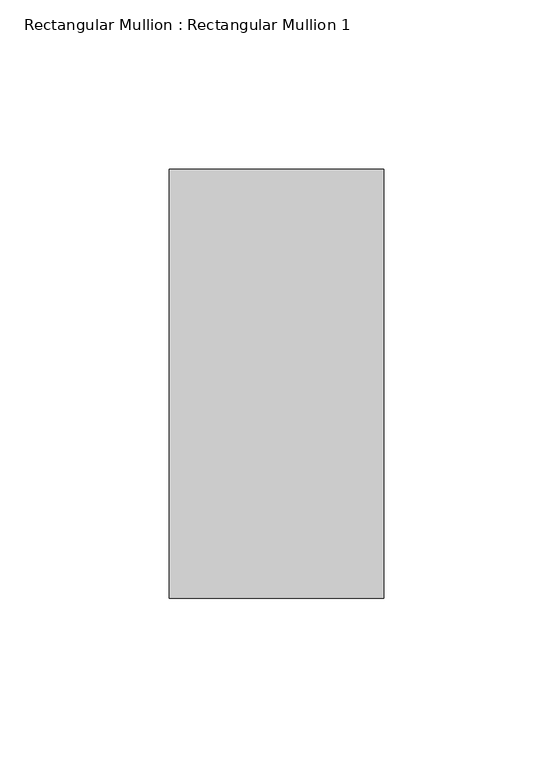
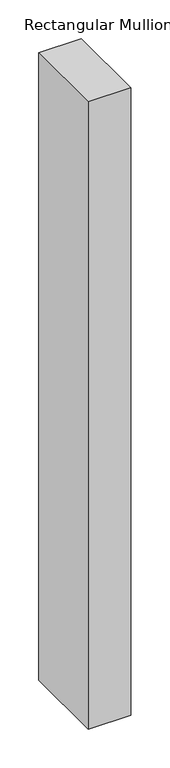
"""IFC4 building model written with IfcOpenShell, lengths in millimetres: member geometry, Rectangular Mullion : Rectangular Mullion 1."""

from ifc_helpers import new_model, si_unit, frame, origin, place, context, project, spatial, polyline, outline, extrude, source, transform, mapped, element, save


def rectangular_mullion_rectangular_mullion_1_21ba479d(model_context):
    return source(origin(), model_context, "Body", "SweptSolid", [
        extrude(outline(polyline([(0.0, 63.5), (0.0, -63.5), (-63.5, -63.5), (-63.5, 63.5), (0.0, 63.5)])), frame((0.0, 0.0, -986.5377248), z_axis=(0.0, 0.0, 1.0), x_axis=(1.0, 0.0, 0.0)), (0.0, 0.0, 1.0), 986.5377248),
    ])


if __name__ == "__main__":
    model = new_model("IFC4")
    model_context = context("Model", 3, world=origin())
    ifc_project = project(units=[si_unit("LENGTHUNIT", "METRE", prefix="MILLI")], contexts=[model_context])
    site = spatial("IfcSite", under=ifc_project)
    building = spatial("IfcBuilding", under=site)
    placement = place(None, origin())
    rectangular_mullion_rectangular_mullion_1_shape = rectangular_mullion_rectangular_mullion_1_21ba479d(model_context)
    element("IfcMember", 1, ObjectType="Rectangular Mullion : Rectangular Mullion 1", at=placement, inside=building, context=model_context, shape_type="MappedRepresentation", body=[
        mapped(rectangular_mullion_rectangular_mullion_1_shape, transform((0.0, 0.0, 0.0), x_axis=(1.0, 0.0, 0.0), y_axis=(0.0, 1.0, 0.0), z_axis=(0.0, 0.0, 1.0))),
    ])
    save(model, "model.ifc")
